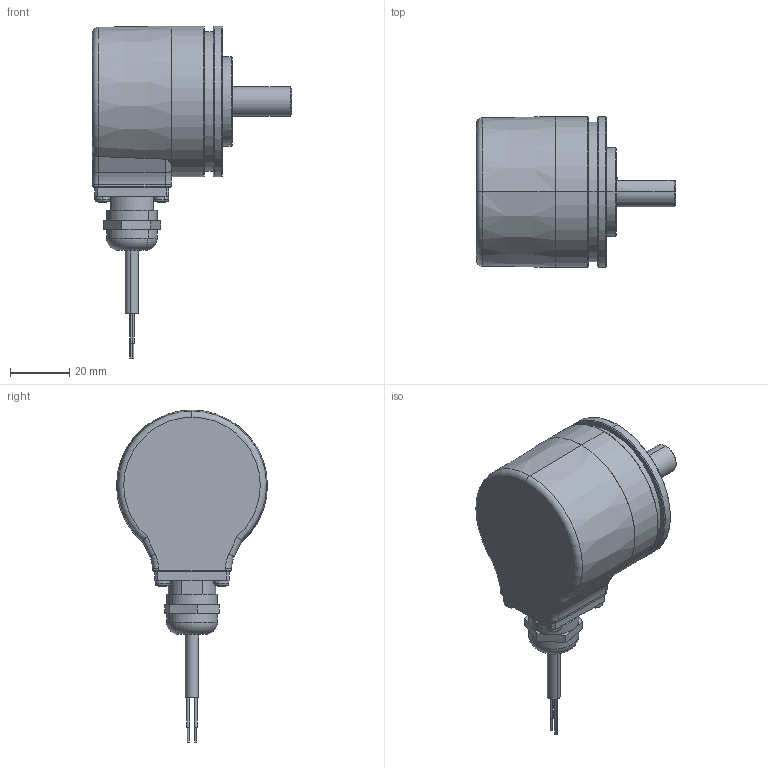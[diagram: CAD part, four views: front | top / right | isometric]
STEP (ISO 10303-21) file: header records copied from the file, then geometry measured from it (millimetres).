
FILE_DESCRIPTION (( 'STEP AP214' ), '1' );
FILE_NAME ('5000.63XB.XXXX.STEP', '2009-04-16T09:42:45', ( 'admin' ), ( 'Fritz Kübler GmbH' ), 'SwSTEP 2.0', 'SolidWorks 2009', '' );
FILE_SCHEMA (( 'AUTOMOTIVE_DESIGN' ));
Length unit declared in the file: millimetre
Products named in the file (1): 5000.63XB.XXXX
Bounding box: 67 x 50.8 x 111.74 mm (x, y, z)
Volume: 55907.6 mm3; surface area: 37101.4 mm2
Topology: 12 solids, 13 shells, 541 faces, 1272 edges, 769 vertices
Faces by surface type: plane 178, cylinder 163, cone 95, torus 63, sphere 32, bspline 10
Entity records: 22192 total; most frequent: CARTESIAN_POINT 3735, DIRECTION 2790, ORIENTED_EDGE 2412, EDGE_CURVE 1206, AXIS2_PLACEMENT_3D 1152, VERTEX_POINT 739, EDGE_LOOP 631, CIRCLE 620
